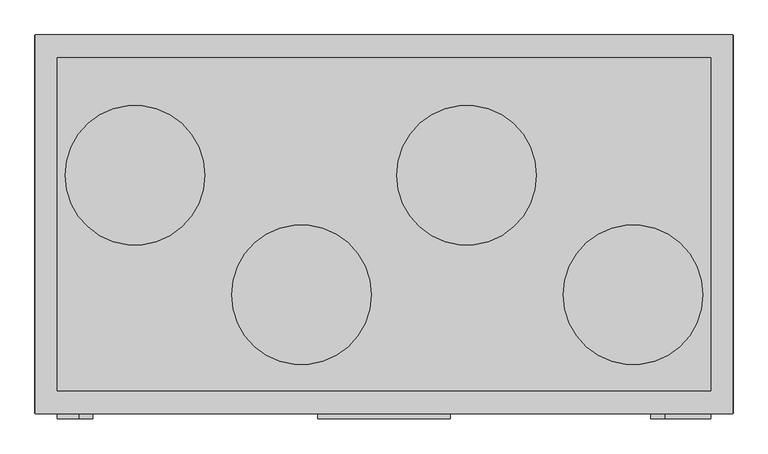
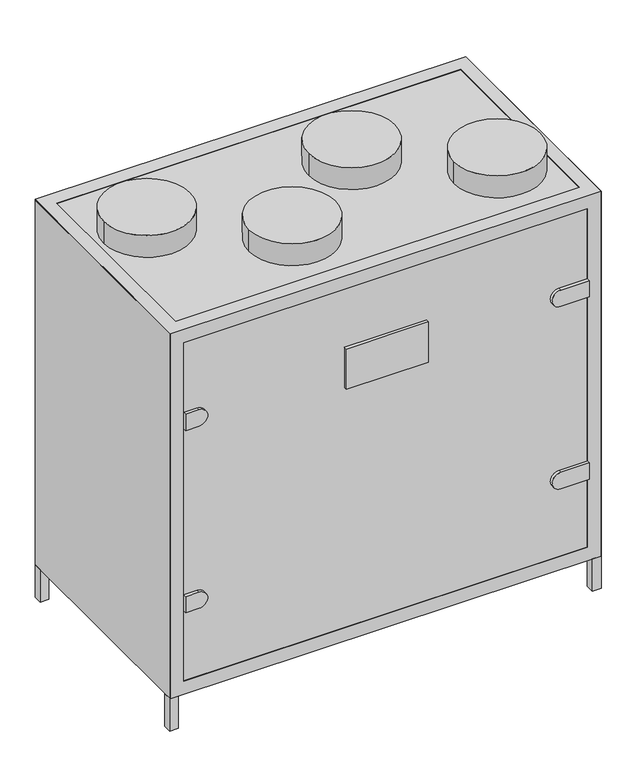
"""IFC4 building model written with IfcOpenShell, lengths in millimetres: proxy geometry, AVS 400...1600-V-RC(RG) : AVS 1100-V-RC."""

from ifc_helpers import new_model, si_unit, point, frame, frame_2d, origin, origin_with_axes, place, context, project, spatial, polyline, circle_curve, trimmed, segment, composite_curve, outline, extrude, faceted_brep, source, transform, mapped, element, save


def mechanical_equipment_9ee506a8(model_context):
    return source(origin(), model_context, "Body", "SolidModel", [
        extrude(outline(polyline([(600.0, 338.0), (625.0, 338.0), (625.0, 313.0), (600.0, 313.0), (600.0, 338.0)])), origin_with_axes(), (0.0, 0.0, 1.0), 100.0),
        extrude(outline(polyline([(600.0, -338.0), (600.0, -313.0), (625.0, -313.0), (625.0, -338.0), (600.0, -338.0)])), origin_with_axes(), (0.0, 0.0, 1.0), 100.0),
        extrude(outline(polyline([(-625.0, 313.0), (-625.0, 338.0), (-600.0, 338.0), (-600.0, 313.0), (-625.0, 313.0)])), origin_with_axes(), (0.0, 0.0, 1.0), 100.0),
        extrude(outline(polyline([(-625.0, -313.0), (-600.0, -313.0), (-600.0, -338.0), (-625.0, -338.0), (-625.0, -313.0)])), origin_with_axes(), (0.0, 0.0, 1.0), 100.0),
        faceted_brep([(624.0, 339.0, 1218.0), (-624.0, 339.0, 1218.0), (-624.0, -339.0, 1218.0), (624.0, -339.0, 1218.0), (-585.0, 298.0, 1218.0), (20.0, 298.0, 1218.0), (585.0, 298.0, 1218.0), (585.0, -298.0, 1218.0), (20.0, -298.0, 1218.0), (-585.0, -298.0, 1218.0), (624.0, 339.0, 99.0), (624.0, -339.0, 99.0), (-624.0, -339.0, 99.0), (-624.0, 339.0, 99.0), (20.0, 298.0, 99.0), (-585.0, 298.0, 99.0), (-585.0, -298.0, 99.0), (20.0, -298.0, 99.0), (585.0, -298.0, 99.0), (585.0, 298.0, 99.0), (20.0, 339.0, 1177.0), (-585.0, 339.0, 1177.0), (-585.0, 339.0, 140.0), (20.0, 339.0, 140.0), (585.0, 339.0, 140.0), (585.0, 339.0, 1177.0), (-624.0, -298.0, 1177.0), (-624.0, -298.0, 140.0), (-624.0, 298.0, 140.0), (-624.0, 298.0, 1177.0), (-585.0, -339.0, 1177.0), (20.0, -339.0, 1177.0), (585.0, -339.0, 1177.0), (585.0, -339.0, 140.0), (20.0, -339.0, 140.0), (-585.0, -339.0, 140.0), (624.0, -298.0, 140.0), (624.0, -298.0, 1177.0), (624.0, 298.0, 1177.0), (624.0, 298.0, 140.0), (-585.0, 298.0, 1177.0), (20.0, 298.0, 1177.0), (20.0, 298.0, 140.0), (-585.0, 298.0, 140.0), (20.0, -298.0, 1177.0), (-585.0, -298.0, 1177.0), (-585.0, -298.0, 140.0), (20.0, -298.0, 140.0), (585.0, 298.0, 1177.0), (585.0, -298.0, 1177.0), (585.0, -298.0, 140.0), (585.0, 298.0, 140.0)], [[[0, 1, 2, 3], [4, 5, 6, 7, 8, 9]], [[10, 11, 12, 13], [14, 15, 16, 17, 18, 19]], [[1, 0, 10, 13], [20, 21, 22, 23, 24, 25]], [[2, 1, 13, 12], [26, 27, 28, 29]], [[3, 2, 12, 11], [30, 31, 32, 33, 34, 35]], [[0, 3, 11, 10], [36, 37, 38, 39]], [[5, 4, 40, 41]], [[15, 14, 42, 43]], [[9, 8, 44, 45]], [[17, 16, 46, 47]], [[7, 6, 48, 49]], [[19, 18, 50, 51]], [[32, 49, 50, 33]], [[48, 25, 24, 51]], [[30, 45, 44, 31]], [[20, 41, 40, 21]], [[46, 35, 34, 47]], [[42, 23, 22, 43]], [[26, 45, 46, 27]], [[49, 37, 36, 50]], [[50, 36, 39, 51]], [[43, 28, 27, 46]], [[51, 39, 38, 48]], [[40, 29, 28, 43]], [[37, 49, 48, 38]], [[29, 40, 45, 26]], [[4, 9, 45, 40]], [[16, 15, 43, 46]], [[45, 30, 35, 46]], [[21, 40, 43, 22]], [[6, 5, 41, 48]], [[14, 19, 51, 42]], [[8, 7, 49, 44]], [[18, 17, 47, 50]], [[49, 32, 31, 44]], [[41, 20, 25, 48]], [[33, 50, 47, 34]], [[23, 42, 51, 24]]]),
        extrude(outline(polyline([(-625.0, 338.0), (625.0, 338.0), (625.0, -338.0), (-625.0, -338.0), (-625.0, 338.0)])), frame((0.0, 0.0, 100.0), z_axis=(0.0, 0.0, 1.0), x_axis=(1.0, 0.0, 0.0)), (0.0, 0.0, 1.0), 1117.0),
        extrude(outline(composite_curve([segment(trimmed(circle_curve(frame_2d((-446.0, 88.0)), 125.0), [point((-321.0, 88.0))], [point((-571.0, 88.0))], False, "CARTESIAN"), True, "CONTINUOUS"), segment(trimmed(circle_curve(frame_2d((-446.0, 88.0)), 125.0), [point((-571.0, 88.0))], [point((-321.0, 88.0))], False, "CARTESIAN"), True, "CONTINUOUS")], self_intersect=False)), frame((0.0, 0.0, 1218.0), z_axis=(0.0, 0.0, 1.0), x_axis=(1.0, 0.0, 0.0)), (0.0, 0.0, 1.0), 67.0),
        extrude(outline(composite_curve([segment(trimmed(circle_curve(frame_2d((-148.0, -126.0)), 125.0), [point((-23.0, -126.0))], [point((-273.0, -126.0))], False, "CARTESIAN"), True, "CONTINUOUS"), segment(trimmed(circle_curve(frame_2d((-148.0, -126.0)), 125.0), [point((-273.0, -126.0))], [point((-23.0, -126.0))], False, "CARTESIAN"), True, "CONTINUOUS")], self_intersect=False)), frame((0.0, 0.0, 1218.0), z_axis=(0.0, 0.0, 1.0), x_axis=(1.0, 0.0, 0.0)), (0.0, 0.0, 1.0), 67.0),
        extrude(outline(composite_curve([segment(trimmed(circle_curve(frame_2d((148.0, 88.0)), 125.0), [point((273.0, 88.0))], [point((23.0, 88.0))], False, "CARTESIAN"), True, "CONTINUOUS"), segment(trimmed(circle_curve(frame_2d((148.0, 88.0)), 125.0), [point((23.0, 88.0))], [point((273.0, 88.0))], False, "CARTESIAN"), True, "CONTINUOUS")], self_intersect=False)), frame((0.0, 0.0, 1218.0), z_axis=(0.0, 0.0, 1.0), x_axis=(1.0, 0.0, 0.0)), (0.0, 0.0, 1.0), 67.0),
        extrude(outline(composite_curve([segment(trimmed(circle_curve(frame_2d((446.0, -126.0)), 125.0), [point((571.0, -126.0))], [point((321.0, -126.0))], False, "CARTESIAN"), True, "CONTINUOUS"), segment(trimmed(circle_curve(frame_2d((446.0, -126.0)), 125.0), [point((321.0, -126.0))], [point((571.0, -126.0))], False, "CARTESIAN"), True, "CONTINUOUS")], self_intersect=False)), frame((0.0, 0.0, 1218.0), z_axis=(0.0, 0.0, 1.0), x_axis=(1.0, 0.0, 0.0)), (0.0, 0.0, 1.0), 67.0),
        extrude(outline(composite_curve([segment(polyline([(962.75, -546.2895396), (962.75, -585.0), (912.75, -585.0), (912.75, -546.2895396)]), True, "CONTINUOUS"), segment(trimmed(circle_curve(frame_2d((937.75, -546.2895396)), 25.0), [point((912.75, -546.2895396))], [point((962.75, -546.2895396))], False, "CARTESIAN"), True, "CONTINUOUS")], self_intersect=False)), frame((0.0, -348.0, 0.0), z_axis=(0.0, 1.0, 0.0), x_axis=(0.0, 0.0, 1.0)), (0.0, 0.0, 1.0), 10.0),
        extrude(outline(composite_curve([segment(polyline([(404.25, -546.2895396), (404.25, -585.0), (354.25, -585.0), (354.25, -546.2895396)]), True, "CONTINUOUS"), segment(trimmed(circle_curve(frame_2d((379.25, -546.2895396)), 25.0), [point((354.25, -546.2895396))], [point((404.25, -546.2895396))], False, "CARTESIAN"), True, "CONTINUOUS")], self_intersect=False)), frame((0.0, -348.0, 0.0), z_axis=(0.0, 1.0, 0.0), x_axis=(0.0, 0.0, 1.0)), (0.0, 0.0, 1.0), 10.0),
        extrude(outline(polyline([(119.0, -348.0), (-119.0, -348.0), (-119.0, -338.0), (119.0, -338.0), (119.0, -348.0)])), frame((0.0, 0.0, 876.0), z_axis=(0.0, 0.0, 1.0), x_axis=(1.0, 0.0, 0.0)), (0.0, 0.0, 1.0), 123.5),
        extrude(outline(composite_curve([segment(trimmed(circle_curve(frame_2d((937.75, 502.2895396)), 25.0), [point((962.75, 502.2895396))], [point((912.75, 502.2895396))], False, "CARTESIAN"), True, "CONTINUOUS"), segment(polyline([(912.75, 502.2895396), (912.75, 585.0), (962.75, 585.0), (962.75, 502.2895396)]), True, "CONTINUOUS")], self_intersect=False)), frame((0.0, -348.0, 0.0), z_axis=(0.0, 1.0, 0.0), x_axis=(0.0, 0.0, 1.0)), (0.0, 0.0, 1.0), 10.0),
        extrude(outline(composite_curve([segment(trimmed(circle_curve(frame_2d((379.25, 502.2895396)), 25.0), [point((404.25, 502.2895396))], [point((354.25, 502.2895396))], False, "CARTESIAN"), True, "CONTINUOUS"), segment(polyline([(354.25, 502.2895396), (354.25, 585.0), (404.25, 585.0), (404.25, 502.2895396)]), True, "CONTINUOUS")], self_intersect=False)), frame((0.0, -348.0, 0.0), z_axis=(0.0, 1.0, 0.0), x_axis=(0.0, 0.0, 1.0)), (0.0, 0.0, 1.0), 10.0),
    ])


if __name__ == "__main__":
    model = new_model("IFC4")
    model_context = context("Model", 3, world=origin())
    ifc_project = project(units=[si_unit("LENGTHUNIT", "METRE", prefix="MILLI")], contexts=[model_context])
    site = spatial("IfcSite", under=ifc_project)
    building = spatial("IfcBuilding", under=site)
    placement = place(None, origin())
    mechanical_equipment_shape = mechanical_equipment_9ee506a8(model_context)
    element("IfcBuildingElementProxy", 1, Name="AVS 400...1600-V-RC(RG) : AVS 1100-V-RC", ObjectType="AVS 400...1600-V-RC(RG) : AVS 1100-V-RC", at=placement, inside=building, context=model_context, shape_type="MappedRepresentation", body=[
        mapped(mechanical_equipment_shape, transform((0.0, 0.0, 0.0), x_axis=(1.0, 0.0, 0.0), y_axis=(0.0, 1.0, 0.0), z_axis=(0.0, 0.0, 1.0))),
    ])
    save(model, "model.ifc")
